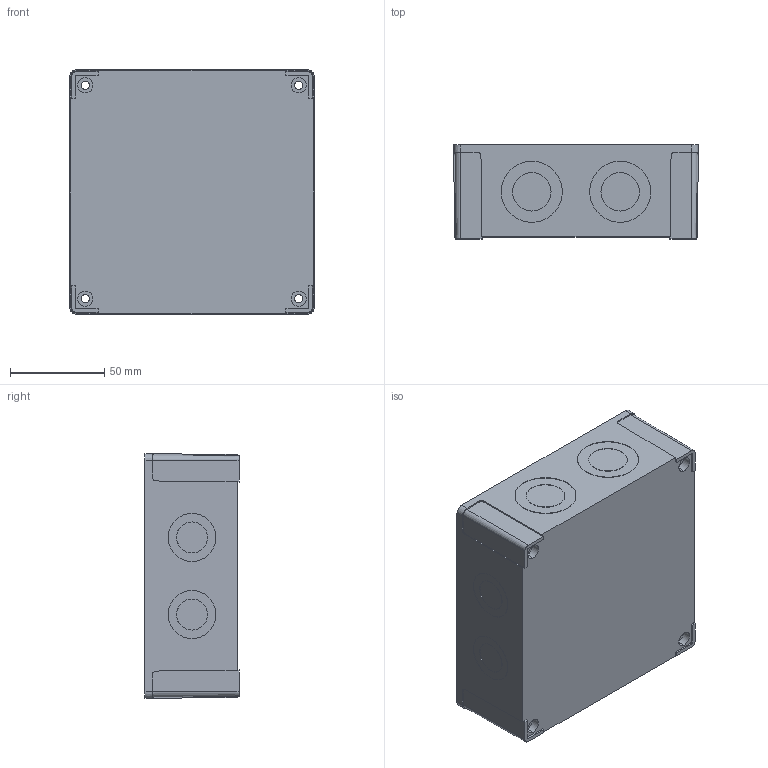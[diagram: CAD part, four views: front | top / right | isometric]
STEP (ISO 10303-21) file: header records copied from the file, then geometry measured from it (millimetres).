
FILE_DESCRIPTION (( 'STEP AP203' ), '1' );
FILE_NAME ('FIBOX_MNXPCM125B.STEP', '2005-06-30T06:37:58', ( ' ' ), ( ' ' ), 'SwSTEP 2.0', 'SolidWorks 2005143', '' );
FILE_SCHEMA (( 'CONFIG_CONTROL_DESIGN' ));
Length unit declared in the file: millimetre
Products named in the file (1): FIBOX_MNXPCM125B
Bounding box: 130.1 x 50 x 130.1 mm (x, y, z)
Volume: 164362.4 mm3; surface area: 88789.5 mm2
Topology: 1 solids, 1 shells, 338 faces, 813 edges, 542 vertices
Faces by surface type: plane 178, cylinder 140, cone 20
Entity records: 10086 total; most frequent: CARTESIAN_POINT 1838, DIRECTION 1771, ORIENTED_EDGE 1626, EDGE_CURVE 813, AXIS2_PLACEMENT_3D 651, VERTEX_POINT 542, VECTOR 469, LINE 469
